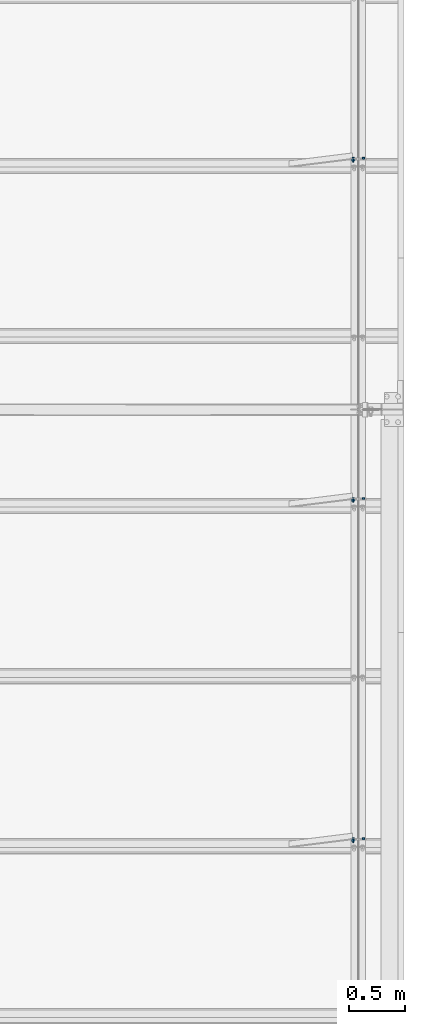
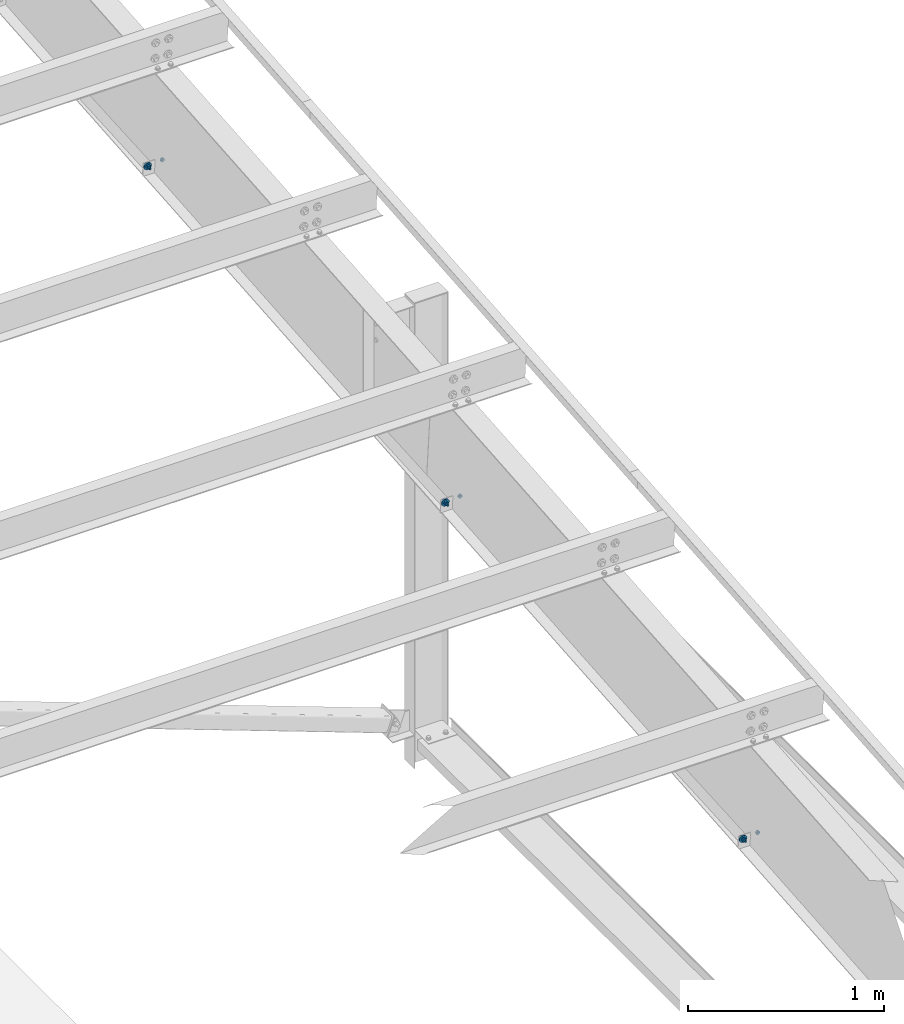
# One storey, part 172 of 185: 9 mechanical fasteners, 4 elements without a shape of their own.
"""IFC2X3 building model written with IfcOpenShell, lengths in millimetres."""

from ifc_helpers import new_model, si_unit, frame, origin_with_axes, origin_2d_with_axis, place, context, subcontext, project, spatial, polyline, circle, outline, extrude, source, transform, mapped, material, type_object, element, aggregate, save


model = new_model("IFC2X3")

# Units and contexts
model_context = context("Model", 3, precision=1e-05, world=origin_with_axes())
body_context = subcontext(model_context, "Body", "Model", "MODEL_VIEW")
ifc_project = project(units=[si_unit("LENGTHUNIT", "METRE", prefix="MILLI"), si_unit("AREAUNIT", "SQUARE_METRE"), si_unit("VOLUMEUNIT", "CUBIC_METRE"), si_unit("MASSUNIT", "GRAM", prefix="KILO"), si_unit("TIMEUNIT", "SECOND"), si_unit("PLANEANGLEUNIT", "RADIAN"), si_unit("SOLIDANGLEUNIT", "STERADIAN"), si_unit("THERMODYNAMICTEMPERATUREUNIT", "DEGREE_CELSIUS"), si_unit("LUMINOUSINTENSITYUNIT", "LUMEN")], contexts=[model_context])

# Site, building, storey
site_placement = place(None, origin_with_axes())
site = spatial("IfcSite", under=ifc_project, at=site_placement, Name="Undefined", CompositionType="ELEMENT")
building_placement = place(site_placement, origin_with_axes())
building = spatial("IfcBuilding", under=site, at=building_placement, Name="Undefined", CompositionType="ELEMENT")
storey_placement = place(building_placement, origin_with_axes())
storey = spatial("IfcBuildingStorey", under=building, at=storey_placement, Name="Undefined", CompositionType="ELEMENT", Elevation=0.0)

# Assembly, mechanical fastener
assembly_1_placement = place(storey_placement, origin_with_axes())
assembly_1 = element("IfcElementAssembly", 1, at=assembly_1_placement, inside=storey, Name="Steel Assembly", AssemblyPlace="NOTDEFINED", PredefinedType="RIGID_FRAME")
ifc_material_1 = material(Name="Undefined")
discrete_accessory_type = type_object("IfcDiscreteAccessoryType", Name="Bolt assembly")
shared_shape_1 = source(origin_with_axes(), body_context, "Body", "SweptSolid", [
    extrude(circle(Radius=7.14374971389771, at=origin_2d_with_axis()), frame((0.0, -1.59000001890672, 0.0), z_axis=(0.0, 1.0, 0.0), x_axis=(1.0, 0.0, 0.0)), (0.0, 0.0, 1.0), 1.7),
    extrude(outline(polyline([(10.9985221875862, 0.0), (5.4992610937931, 9.52499961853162), (-5.4992610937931, 9.52499961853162), (-10.9985221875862, 0.0), (-5.4992610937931, -9.52499961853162), (5.4992610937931, -9.52499961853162), (10.9985221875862, 0.0)])), frame((0.0, -15.0837496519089, 0.0), z_axis=(0.0, 1.0, 0.0), x_axis=(1.0, 0.0, 0.0)), (0.0, 0.0, 1.0), 9.5),
    extrude(circle(Radius=6.34999990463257, at=origin_2d_with_axis()), frame((0.0, -5.5587500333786, 0.0), z_axis=(0.0, 1.0, 0.0), x_axis=(1.0, 0.0, 0.0)), (0.0, 0.0, 1.0), 38.1),
    extrude(circle(Radius=13.4937496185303, at=origin_2d_with_axis()), frame((0.0, -5.5587500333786, 0.0), z_axis=(0.0, 1.0, 0.0), x_axis=(1.0, 0.0, 0.0)), (0.0, 0.0, 1.0), 4.0),
    extrude(circle(Radius=22.2250003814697, at=origin_2d_with_axis()), frame((0.0, 0.0, 0.0), z_axis=(0.0, 1.0, 0.0), x_axis=(1.0, 0.0, 0.0)), (0.0, 0.0, 1.0), 7.9),
    extrude(outline(polyline([(12.8316099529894, 0.0), (6.4158049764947, 11.1125001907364), (-6.4158049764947, 11.1125001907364), (-12.8316099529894, 0.0), (-6.4158049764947, -11.1125001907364), (6.4158049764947, -11.1125001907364), (12.8316099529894, 0.0)])), frame((0.0, 7.93750000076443, 0.0), z_axis=(0.0, 1.0, 0.0), x_axis=(1.0, 0.0, 0.0)), (0.0, 0.0, 1.0), 12.3),
])
mechanical_fastener_1_placement = place(assembly_1_placement, frame((44504.8883669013, 14250.9027835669, 6421.00356185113), z_axis=(0.832860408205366, -0.0459642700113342, 0.551571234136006), x_axis=(-0.553483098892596, -0.0691652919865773, 0.829983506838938)))
mechanical_fastener_1 = element("IfcMechanicalFastener", 2, at=mechanical_fastener_1_placement, type_object=discrete_accessory_type, material=ifc_material_1, Name="Bolt assembly", NominalDiameter=12.6999998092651, NominalLength=38.0999984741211, context=body_context, shape_type="MappedRepresentation", body=[
    mapped(shared_shape_1, transform((0.0, 0.0, 0.0))),
])
aggregate(assembly_1, [mechanical_fastener_1])

assembly_2_placement = place(storey_placement, origin_with_axes())
assembly_2 = element("IfcElementAssembly", 3, at=assembly_2_placement, inside=storey, Name="Steel Assembly", AssemblyPlace="NOTDEFINED", PredefinedType="RIGID_FRAME")
mechanical_fastener_2_placement = place(assembly_2_placement, frame((44504.8883669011, 11213.4313124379, 6167.88093925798), z_axis=(0.832860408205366, -0.0459642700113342, 0.551571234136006), x_axis=(-0.553483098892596, -0.0691652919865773, 0.829983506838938)))
mechanical_fastener_2 = element("IfcMechanicalFastener", 4, at=mechanical_fastener_2_placement, type_object=discrete_accessory_type, material=ifc_material_1, Name="Bolt assembly", NominalDiameter=12.6999998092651, NominalLength=38.0999984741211, context=body_context, shape_type="MappedRepresentation", body=[
    mapped(shared_shape_1, transform((0.0, 0.0, 0.0))),
])
aggregate(assembly_2, [mechanical_fastener_2])

assembly_3_placement = place(storey_placement, origin_with_axes())
assembly_3 = element("IfcElementAssembly", 5, at=assembly_3_placement, inside=storey, Name="Steel Assembly", AssemblyPlace="NOTDEFINED", PredefinedType="RIGID_FRAME")
mechanical_fastener_3_placement = place(assembly_3_placement, frame((44504.8883669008, 8175.95984130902, 5914.75831666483), z_axis=(0.832860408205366, -0.0459642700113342, 0.551571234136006), x_axis=(-0.553483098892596, -0.0691652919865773, 0.829983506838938)))
mechanical_fastener_3 = element("IfcMechanicalFastener", 6, at=mechanical_fastener_3_placement, type_object=discrete_accessory_type, material=ifc_material_1, Name="Bolt assembly", NominalDiameter=12.6999998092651, NominalLength=38.0999984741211, context=body_context, shape_type="MappedRepresentation", body=[
    mapped(shared_shape_1, transform((0.0, 0.0, 0.0))),
])
aggregate(assembly_3, [mechanical_fastener_3])

# Assembly, mechanical fasteners
assembly_4_placement = place(storey_placement, origin_with_axes())
assembly_4 = element("IfcElementAssembly", 7, at=assembly_4_placement, inside=storey, Name="Steel Assembly", AssemblyPlace="NOTDEFINED", PredefinedType="RIGID_FRAME")
ifc_material_2 = material(Name="7990")
shared_shape_2 = source(origin_with_axes(), body_context, "Body", "SweptSolid", [
    extrude(circle(Radius=7.14374971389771, at=origin_2d_with_axis()), frame((0.0, -3.41600000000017, 0.0), z_axis=(0.0, 1.0, 0.0), x_axis=(1.0, 0.0, 0.0)), (0.0, 0.0, 1.0), 3.5),
    extrude(circle(Radius=11.4299998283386, at=origin_2d_with_axis()), frame((0.0, 0.0, 0.0), z_axis=(0.0, 1.0, 0.0), x_axis=(1.0, 0.0, 0.0)), (0.0, 0.0, 1.0), 4.2),
    extrude(outline(polyline([(12.171698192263, 0.0), (6.08584909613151, 10.5409998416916), (-6.08584909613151, 10.5409998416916), (-12.171698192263, 0.0), (-6.08584909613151, -10.5409998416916), (6.08584909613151, -10.5409998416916), (12.171698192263, 0.0)])), frame((0.0, 4.1909999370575, 0.0), z_axis=(0.0, 1.0, 0.0), x_axis=(1.0, 0.0, 0.0)), (0.0, 0.0, 1.0), 8.4),
])
mechanical_fastener_4_placement = place(assembly_4_placement, frame((44597.75815, 14250.9719488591, 6420.17357834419), z_axis=(0.921635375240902, -0.0322263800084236, 0.386716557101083), x_axis=(0.388056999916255, 0.0765376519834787, -0.9184518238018)))
mechanical_fastener_4 = element("IfcMechanicalFastener", 8, at=mechanical_fastener_4_placement, type_object=discrete_accessory_type, material=ifc_material_2, Name="Bolt assembly", NominalDiameter=12.6999998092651, NominalLength=38.0999984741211, context=body_context, shape_type="MappedRepresentation", body=[
    mapped(shared_shape_2, transform((0.0, 0.0, 0.0))),
])
mechanical_fastener_5_placement = place(assembly_4_placement, frame((44597.75815, 11213.5004777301, 6167.0509557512), z_axis=(0.921635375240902, -0.0322263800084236, 0.386716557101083), x_axis=(0.388056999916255, 0.0765376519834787, -0.9184518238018)))
mechanical_fastener_5 = element("IfcMechanicalFastener", 9, at=mechanical_fastener_5_placement, type_object=discrete_accessory_type, material=ifc_material_2, Name="Bolt assembly", NominalDiameter=12.6999998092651, NominalLength=38.0999984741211, context=body_context, shape_type="MappedRepresentation", body=[
    mapped(shared_shape_2, transform((0.0, 0.0, 0.0))),
])
mechanical_fastener_6_placement = place(assembly_4_placement, frame((44597.75815, 8176.02900660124, 5913.92833315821), z_axis=(0.921635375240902, -0.0322263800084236, 0.386716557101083), x_axis=(0.388056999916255, 0.0765376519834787, -0.9184518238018)))
mechanical_fastener_6 = element("IfcMechanicalFastener", 10, at=mechanical_fastener_6_placement, type_object=discrete_accessory_type, material=ifc_material_2, Name="Bolt assembly", NominalDiameter=12.6999998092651, NominalLength=38.0999984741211, context=body_context, shape_type="MappedRepresentation", body=[
    mapped(shared_shape_2, transform((0.0, 0.0, 0.0))),
])
shared_shape_3 = source(origin_with_axes(), body_context, "Body", "SweptSolid", [
    extrude(circle(Radius=7.14374971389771, at=origin_2d_with_axis()), frame((0.0, 0.0, 0.0), z_axis=(0.0, 1.0, 0.0), x_axis=(1.0, 0.0, 0.0)), (0.0, 0.0, 1.0), 3.5),
    extrude(circle(Radius=11.4299998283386, at=origin_2d_with_axis()), frame((0.0, 3.41600000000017, 0.0), z_axis=(0.0, 1.0, 0.0), x_axis=(1.0, 0.0, 0.0)), (0.0, 0.0, 1.0), 4.2),
    extrude(outline(polyline([(12.171698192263, 0.0), (6.08584909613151, 10.5409998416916), (-6.08584909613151, 10.5409998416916), (-12.171698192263, 0.0), (-6.08584909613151, -10.5409998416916), (6.08584909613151, -10.5409998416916), (12.171698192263, 0.0)])), frame((0.0, 7.60699993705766, 0.0), z_axis=(0.0, 1.0, 0.0), x_axis=(1.0, 0.0, 0.0)), (0.0, 0.0, 1.0), 8.4),
])
mechanical_fastener_7_placement = place(assembly_4_placement, frame((44505.44185, 14250.9719488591, 6420.17357834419), z_axis=(-0.921635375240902, -0.0322263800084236, 0.386716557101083), x_axis=(-0.388056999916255, 0.0765376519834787, -0.9184518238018)))
mechanical_fastener_7 = element("IfcMechanicalFastener", 11, at=mechanical_fastener_7_placement, type_object=discrete_accessory_type, material=ifc_material_2, Name="Bolt assembly", NominalDiameter=12.6999998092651, NominalLength=38.0999984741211, context=body_context, shape_type="MappedRepresentation", body=[
    mapped(shared_shape_3, transform((0.0, 0.0, 0.0))),
])
mechanical_fastener_8_placement = place(assembly_4_placement, frame((44505.44185, 11213.5004777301, 6167.0509557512), z_axis=(-0.921635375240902, -0.0322263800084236, 0.386716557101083), x_axis=(-0.388056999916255, 0.0765376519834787, -0.9184518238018)))
mechanical_fastener_8 = element("IfcMechanicalFastener", 12, at=mechanical_fastener_8_placement, type_object=discrete_accessory_type, material=ifc_material_2, Name="Bolt assembly", NominalDiameter=12.6999998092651, NominalLength=38.0999984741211, context=body_context, shape_type="MappedRepresentation", body=[
    mapped(shared_shape_3, transform((0.0, 0.0, 0.0))),
])
mechanical_fastener_9_placement = place(assembly_4_placement, frame((44505.44185, 8176.02900660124, 5913.92833315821), z_axis=(-0.921635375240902, -0.0322263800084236, 0.386716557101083), x_axis=(-0.388056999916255, 0.0765376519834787, -0.9184518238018)))
mechanical_fastener_9 = element("IfcMechanicalFastener", 13, at=mechanical_fastener_9_placement, type_object=discrete_accessory_type, material=ifc_material_2, Name="Bolt assembly", NominalDiameter=12.6999998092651, NominalLength=38.0999984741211, context=body_context, shape_type="MappedRepresentation", body=[
    mapped(shared_shape_3, transform((0.0, 0.0, 0.0))),
])
aggregate(assembly_4, [mechanical_fastener_7, mechanical_fastener_4, mechanical_fastener_8, mechanical_fastener_5, mechanical_fastener_9, mechanical_fastener_6])

save(model, "model.ifc")
